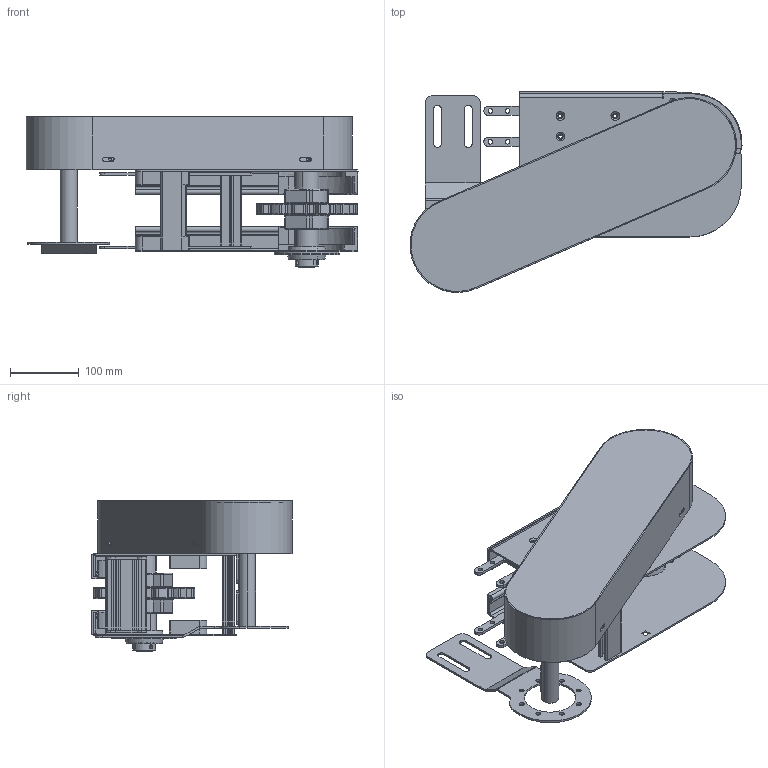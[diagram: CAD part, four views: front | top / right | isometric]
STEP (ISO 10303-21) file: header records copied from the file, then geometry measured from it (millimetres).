
FILE_DESCRIPTION (( 'STEP AP214' ), '1' );
FILE_NAME ('2000.450.363.STEP', '2020-11-20T09:08:01', ( 'Localadmin' ), ( 'Microsoft' ), 'SwSTEP 2.0', 'SolidWorks 2018', '' );
FILE_SCHEMA (( 'AUTOMOTIVE_DESIGN' ));
Length unit declared in the file: millimetre
Products named in the file (27): PROFILO POLIZENE LARGO; 2000.450.002; 2000.001.308; 2000.001.306; 2000.001.301-1; 2000.450.104-1; 2000.450.103-1; 2000.001.006-1; 2000.450.003; 2000.001.001; 2000.001.009-2; 2000.001.914; 2000.001.008-2; 356.124.002; 2000.001.304; 25T10-970; 2000.450.001; CHIAVETTE_A 8x7x50 UNI 6604-69; 2000.450.301; CHIAVETTE_A 8x7x30 UNI 6604-69; 2000.001.303; RUOTE DI TRAINO NS880_NS880T12R25; 2000.450.303-2; SBPF205; Circlip DIN 471 - 19 x 1.2_Circlip DIN 471 - 19 x 1.2; 2000.450.363; 61804
Assembly tree (38 placements, depth 2):
  2000.450.363
    2000.450.303-2
    2000.001.303
    2000.450.301
    2000.450.001  x2
    2000.001.304  x2
    2000.001.008-2
    2000.001.009-2
    2000.001.001  x2
    2000.450.003  x2
    2000.001.006-1  x2
    2000.450.103-1
    2000.450.104-1
    2000.001.301-1
    2000.001.306
    2000.001.308
    2000.450.002  x2
    PROFILO POLIZENE LARGO  x2
    61804  x2
    Circlip DIN 471 - 19 x 1.2_Circlip DIN 471 - 19 x 1.2
    SBPF205  x2
    RUOTE DI TRAINO NS880_NS880T12R25
    CHIAVETTE_A 8x7x30 UNI 6604-69  x2
    CHIAVETTE_A 8x7x50 UNI 6604-69  x3
    25T10-970
    356.124.002
    2000.001.914
Bounding box: 483.94 x 292.6 x 219.5 mm (x, y, z)
Volume: 2311572.3 mm3; surface area: 1388450.5 mm2
Topology: 37 solids, 43 shells, 2392 faces, 6475 edges, 4200 vertices
Faces by surface type: plane 1152, cylinder 978, torus 184, cone 62, bspline 16
Entity records: 61654 total; most frequent: CARTESIAN_POINT 11161, DIRECTION 10603, ORIENTED_EDGE 10074, EDGE_CURVE 5039, AXIS2_PLACEMENT_3D 3706, VERTEX_POINT 3252, VECTOR 3191, LINE 3191
